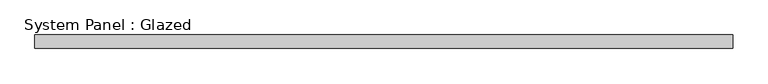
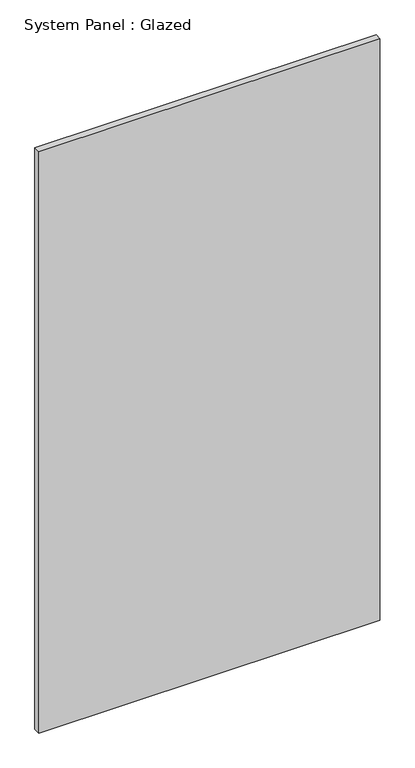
"""IFC4 building model written with IfcOpenShell, lengths in millimetres: plate geometry, System Panel : Glazed."""

from ifc_helpers import new_model, si_unit, origin, origin_with_axes, place, context, project, spatial, polyline, outline, extrude, source, transform, mapped, element, save


def system_panel_glazed_a348b684(model_context):
    return source(origin(), model_context, "Body", "SweptSolid", [
        extrude(outline(polyline([(645.4166668, 24.5), (-645.4166668, 24.5), (-645.4166668, 49.5), (645.4166668, 49.5), (645.4166668, 24.5)])), origin_with_axes(), (0.0, 0.0, 1.0), 2325.0),
    ])


if __name__ == "__main__":
    model = new_model("IFC4")
    model_context = context("Model", 3, world=origin())
    ifc_project = project(units=[si_unit("LENGTHUNIT", "METRE", prefix="MILLI")], contexts=[model_context])
    site = spatial("IfcSite", under=ifc_project)
    building = spatial("IfcBuilding", under=site)
    placement = place(None, origin())
    system_panel_glazed_shape = system_panel_glazed_a348b684(model_context)
    element("IfcPlate", 1, ObjectType="System Panel : Glazed", at=placement, inside=building, context=model_context, shape_type="MappedRepresentation", body=[
        mapped(system_panel_glazed_shape, transform((0.0, 0.0, 0.0), x_axis=(1.0, 0.0, 0.0), y_axis=(0.0, 1.0, 0.0), z_axis=(0.0, 0.0, 1.0))),
    ])
    save(model, "model.ifc")
